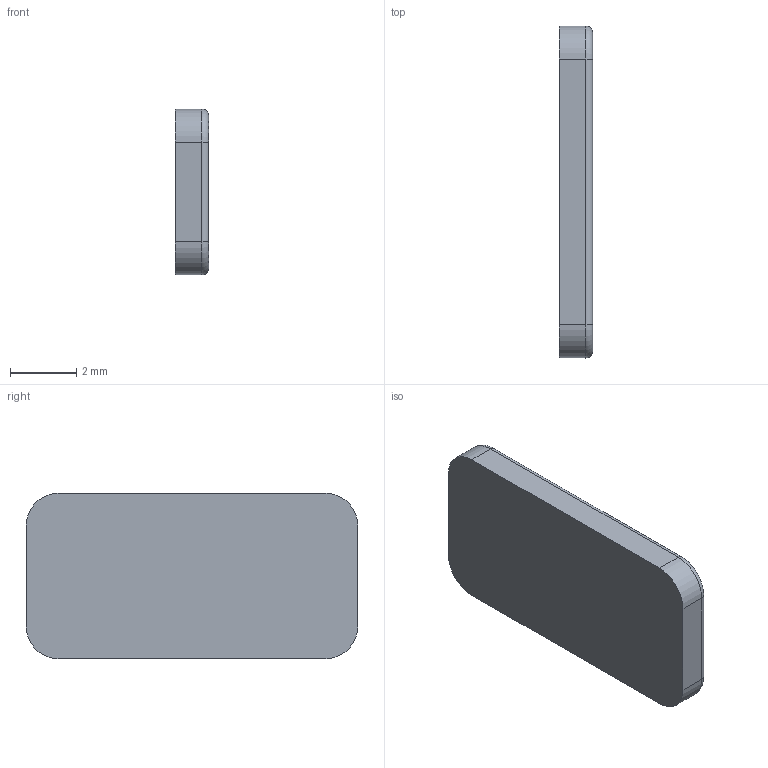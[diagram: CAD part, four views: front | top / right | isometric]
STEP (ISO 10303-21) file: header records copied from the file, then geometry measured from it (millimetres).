
FILE_DESCRIPTION((''),'2;1');
FILE_NAME('ID-GTC-USB-COV_PRT','2008-06-30T',('GRA'),(''),'PRO/ENGINEER BY PARAMETRIC TECHNOLOGY CORPORATION, 2006170','PRO/ENGINEER BY PARAMETRIC TECHNOLOGY CORPORATION, 2006170','');
FILE_SCHEMA(('CONFIG_CONTROL_DESIGN'));
Length unit declared in the file: millimetre
Products named in the file (1): ID-GTC-USB-COV_PRT
Bounding box: 1 x 10 x 5 mm (x, y, z)
Volume: 48.9 mm3; surface area: 124.1 mm2
Topology: 1 solids, 1 shells, 18 faces, 40 edges, 24 vertices
Faces by surface type: cylinder 8, plane 6, torus 4
Entity records: 538 total; most frequent: DIRECTION 96, CARTESIAN_POINT 82, ORIENTED_EDGE 80, EDGE_CURVE 40, AXIS2_PLACEMENT_3D 38, VERTEX_POINT 24, VECTOR 20, LINE 20
